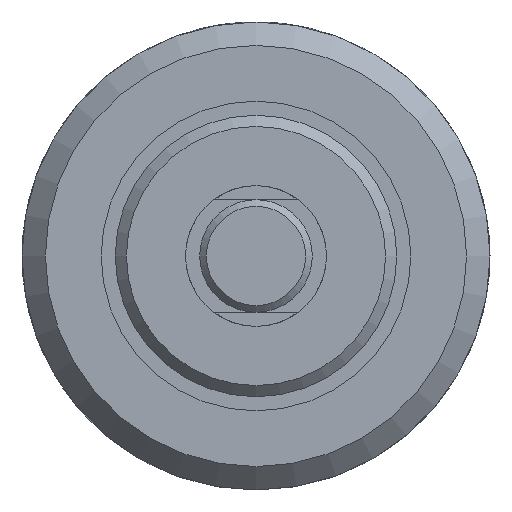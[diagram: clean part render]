
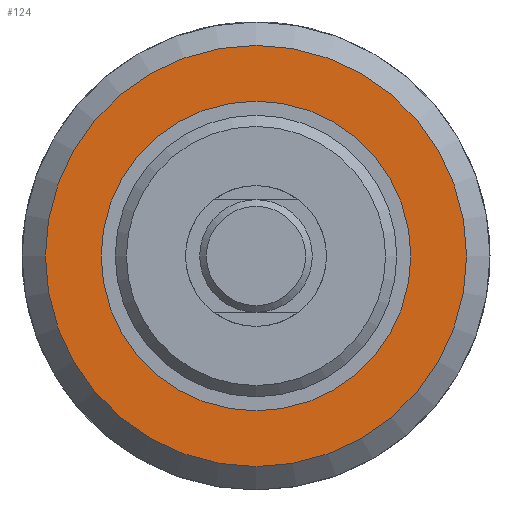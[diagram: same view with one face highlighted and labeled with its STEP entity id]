
A CAD part, left-side view. The second image highlights one B-rep face of the part: STEP entity #124.
In plain terms, the highlighted planar face has unit normal (-1, 0, 0).
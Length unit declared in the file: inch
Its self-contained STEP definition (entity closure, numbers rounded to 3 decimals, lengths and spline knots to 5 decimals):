
#124 = ADVANCED_FACE( '', ( #265, #266 ), #267, .F. );
#265 = FACE_OUTER_BOUND( '', #459, .T. );
#266 = FACE_BOUND( '', #460, .T. );
#267 = PLANE( '', #461 );
#459 = EDGE_LOOP( '', ( #652 ) );
#460 = EDGE_LOOP( '', ( #653 ) );
#461 = AXIS2_PLACEMENT_3D( '', #654, #655, #656 );
#652 = ORIENTED_EDGE( '', *, *, #960, .F. );
#653 = ORIENTED_EDGE( '', *, *, #961, .T. );
#654 = CARTESIAN_POINT( '', ( 0.813, 0.6875, 0. ) );
#655 = DIRECTION( '', ( 1., 0., 0. ) );
#656 = DIRECTION( '', ( 0., 0., -1. ) );
#960 = EDGE_CURVE( '', #1083, #1083, #1084, .T. );
#961 = EDGE_CURVE( '', #1085, #1085, #1086, .T. );
#1083 = VERTEX_POINT( '', #1252 );
#1084 = CIRCLE( '', #1253, 0.9351 );
#1085 = VERTEX_POINT( '', #1254 );
#1086 = CIRCLE( '', #1255, 0.6875 );
#1252 = CARTESIAN_POINT( '', ( 0.813, 0., -0.9351 ) );
#1253 = AXIS2_PLACEMENT_3D( '', #1537, #1538, #1539 );
#1254 = CARTESIAN_POINT( '', ( 0.813, 0., -0.6875 ) );
#1255 = AXIS2_PLACEMENT_3D( '', #1540, #1541, #1542 );
#1537 = CARTESIAN_POINT( '', ( 0.813, 0., 0. ) );
#1538 = DIRECTION( '', ( 1., 0., 0. ) );
#1539 = DIRECTION( '', ( 0., 0., -1. ) );
#1540 = CARTESIAN_POINT( '', ( 0.813, 0., 0. ) );
#1541 = DIRECTION( '', ( 1., 0., 0. ) );
#1542 = DIRECTION( '', ( 0., 0., -1. ) );
